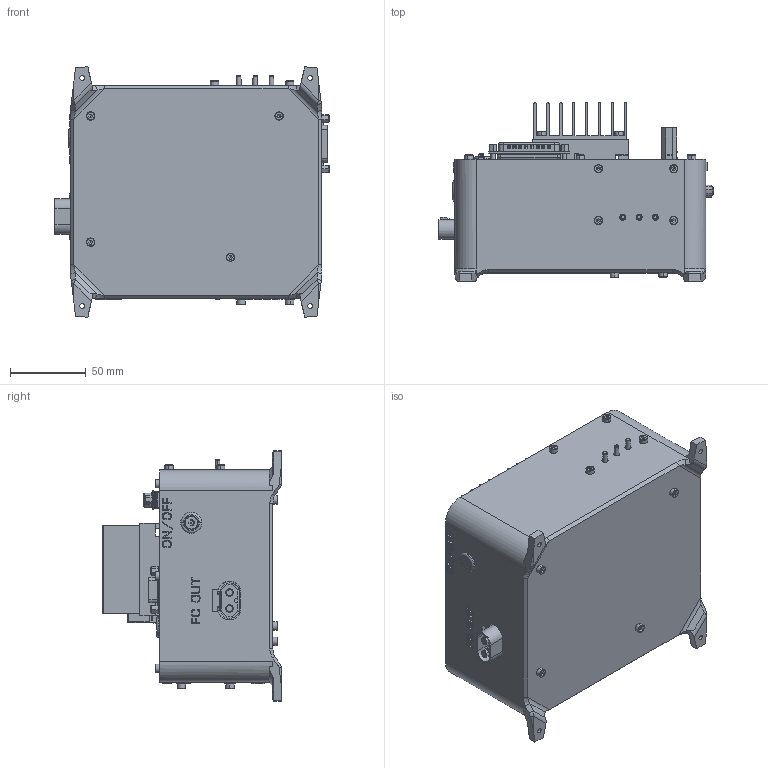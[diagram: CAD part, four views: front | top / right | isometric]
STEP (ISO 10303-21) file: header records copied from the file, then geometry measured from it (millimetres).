
FILE_DESCRIPTION (( 'STEP AP203' ), '1' );
FILE_NAME ('Electronic Controller V1.82.STEP', '2025-08-15T04:39:56', ( '' ), ( '' ), 'SwSTEP 2.0', 'SolidWorks 2021', '' );
FILE_SCHEMA (( 'CONFIG_CONTROL_DESIGN' ));
Products named in the file (1): Electronic Controller V1.82
Bounding box: 180.3 x 117.5 x 164.66 mm (x, y, z)
Surface area: 204384.7 mm2 (no closed solid volume)
Topology: 0 solids, 115 shells, 3057 faces, 12464 edges, 9402 vertices
Faces by surface type: plane 1739, cylinder 883, bspline 244, cone 154, torus 37
Entity records: 150167 total; most frequent: CARTESIAN_POINT 51491, DIRECTION 18934, ORIENTED_EDGE 18304, EDGE_CURVE 12424, VERTEX_POINT 9402, LINE 8006, VECTOR 8006, AXIS2_PLACEMENT_3D 5464
